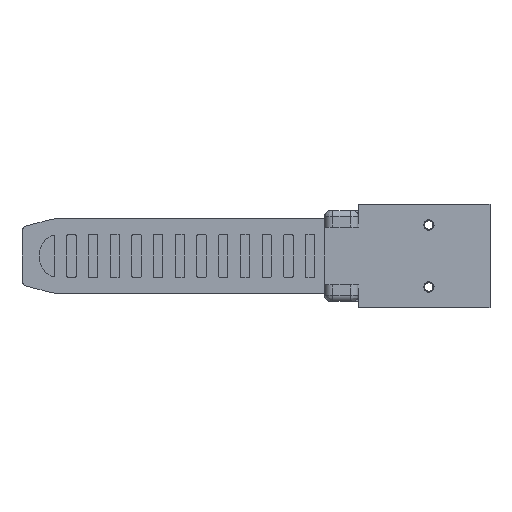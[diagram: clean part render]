
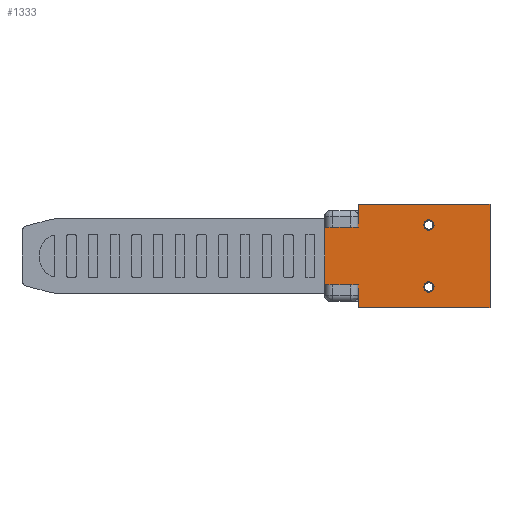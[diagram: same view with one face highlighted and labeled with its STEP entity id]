
A CAD part, front view. The second image highlights one B-rep face of the part: STEP entity #1333.
In plain terms, the highlighted planar face has unit normal (0, -1, 0).
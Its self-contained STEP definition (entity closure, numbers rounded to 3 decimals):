
#188 = CARTESIAN_POINT ( 'NONE',  ( -14.2, -5., 12.5 ) ) ;
#370 = DIRECTION ( 'NONE',  ( 0., 0., 1. ) ) ;
#449 = VECTOR ( 'NONE', #7078, 1000. ) ;
#491 = CARTESIAN_POINT ( 'NONE',  ( 11., -5., 6.25 ) ) ;
#506 = ORIENTED_EDGE ( 'NONE', *, *, #10434, .F. ) ;
#710 = CARTESIAN_POINT ( 'NONE',  ( -6., -5., 7.8 ) ) ;
#745 = ORIENTED_EDGE ( 'NONE', *, *, #15142, .T. ) ;
#891 = AXIS2_PLACEMENT_3D ( 'NONE', #17645, #9014, #370 ) ;
#1195 = AXIS2_PLACEMENT_3D ( 'NONE', #188, #10262, #1647 ) ;
#1333 = ADVANCED_FACE ( 'NONE', ( #2275, #9898, #6553 ), #13093, .F. ) ;
#1440 = ORIENTED_EDGE ( 'NONE', *, *, #17404, .F. ) ;
#1647 = DIRECTION ( 'NONE',  ( 0., 0., 1. ) ) ;
#1950 = DIRECTION ( 'NONE',  ( 0., 1., 0. ) ) ;
#2263 = CIRCLE ( 'NONE', #16727, 1.25 ) ;
#2275 = FACE_BOUND ( 'NONE', #7968, .T. ) ;
#2513 = CARTESIAN_POINT ( 'NONE',  ( -14.2, -5., 12.5 ) ) ;
#2555 = LINE ( 'NONE', #17096, #10185 ) ;
#2557 = VERTEX_POINT ( 'NONE', #3189 ) ;
#2663 = DIRECTION ( 'NONE',  ( 0., 0., -1. ) ) ;
#2945 = DIRECTION ( 'NONE',  ( 0., 1., 0. ) ) ;
#3189 = CARTESIAN_POINT ( 'NONE',  ( 25.8, -5., 12.5 ) ) ;
#3213 = EDGE_CURVE ( 'NONE', #2557, #12687, #17514, .T. ) ;
#3899 = VERTEX_POINT ( 'NONE', #16775 ) ;
#3991 = ORIENTED_EDGE ( 'NONE', *, *, #17586, .T. ) ;
#4229 = VECTOR ( 'NONE', #2663, 1000. ) ;
#4242 = CARTESIAN_POINT ( 'NONE',  ( 11., -5., -7.5 ) ) ;
#4704 = ORIENTED_EDGE ( 'NONE', *, *, #6563, .T. ) ;
#5021 = EDGE_CURVE ( 'NONE', #3899, #12687, #8408, .T. ) ;
#5630 = VECTOR ( 'NONE', #12458, 1000. ) ;
#5677 = DIRECTION ( 'NONE',  ( 0., 0., 1. ) ) ;
#5811 = VERTEX_POINT ( 'NONE', #13562 ) ;
#6553 = FACE_OUTER_BOUND ( 'NONE', #15691, .T. ) ;
#6563 = EDGE_CURVE ( 'NONE', #17750, #16525, #10561, .T. ) ;
#6738 = CARTESIAN_POINT ( 'NONE',  ( 25.8, -5., -12.5 ) ) ;
#6842 = EDGE_CURVE ( 'NONE', #13598, #7952, #15289, .T. ) ;
#7078 = DIRECTION ( 'NONE',  ( 1., 0., 0. ) ) ;
#7231 = CIRCLE ( 'NONE', #891, 1.25 ) ;
#7406 = VECTOR ( 'NONE', #13114, 1000. ) ;
#7952 = VERTEX_POINT ( 'NONE', #710 ) ;
#7968 = EDGE_LOOP ( 'NONE', ( #745, #14811 ) ) ;
#8350 = CARTESIAN_POINT ( 'NONE',  ( -6., -5., -7.8 ) ) ;
#8408 = LINE ( 'NONE', #12757, #10421 ) ;
#8481 = DIRECTION ( 'NONE',  ( 1., 0., 0. ) ) ;
#8619 = ORIENTED_EDGE ( 'NONE', *, *, #6842, .T. ) ;
#8640 = EDGE_CURVE ( 'NONE', #13374, #5811, #2555, .T. ) ;
#8723 = VERTEX_POINT ( 'NONE', #10085 ) ;
#8987 = LINE ( 'NONE', #2513, #12797 ) ;
#9014 = DIRECTION ( 'NONE',  ( 0., 1., 0. ) ) ;
#9228 = CARTESIAN_POINT ( 'NONE',  ( 11., -5., -8.75 ) ) ;
#9725 = DIRECTION ( 'NONE',  ( 0., 0., -1. ) ) ;
#9835 = VECTOR ( 'NONE', #9725, 1000. ) ;
#9837 = CIRCLE ( 'NONE', #14046, 1.25 ) ;
#9898 = FACE_BOUND ( 'NONE', #16863, .T. ) ;
#10085 = CARTESIAN_POINT ( 'NONE',  ( 11., -5., -6.25 ) ) ;
#10108 = CARTESIAN_POINT ( 'NONE',  ( 11., -5., 8.75 ) ) ;
#10185 = VECTOR ( 'NONE', #18485, 1000. ) ;
#10262 = DIRECTION ( 'NONE',  ( 0., 1., 0. ) ) ;
#10421 = VECTOR ( 'NONE', #8481, 1000. ) ;
#10434 = EDGE_CURVE ( 'NONE', #13598, #2557, #8987, .T. ) ;
#10505 = CARTESIAN_POINT ( 'NONE',  ( -14.2, -5., 7.8 ) ) ;
#10561 = CIRCLE ( 'NONE', #15905, 1.25 ) ;
#10568 = CARTESIAN_POINT ( 'NONE',  ( 11., -5., 7.5 ) ) ;
#11461 = LINE ( 'NONE', #15741, #449 ) ;
#11467 = ORIENTED_EDGE ( 'NONE', *, *, #13397, .T. ) ;
#11546 = CARTESIAN_POINT ( 'NONE',  ( 11., -5., 7.5 ) ) ;
#11674 = CARTESIAN_POINT ( 'NONE',  ( -6., -5., 12.5 ) ) ;
#12007 = DIRECTION ( 'NONE',  ( 0., 0., 1. ) ) ;
#12458 = DIRECTION ( 'NONE',  ( -1., 0., 0. ) ) ;
#12687 = VERTEX_POINT ( 'NONE', #6738 ) ;
#12712 = ORIENTED_EDGE ( 'NONE', *, *, #8640, .T. ) ;
#12757 = CARTESIAN_POINT ( 'NONE',  ( -14.2, -5., -12.5 ) ) ;
#12797 = VECTOR ( 'NONE', #14010, 1000. ) ;
#12994 = DIRECTION ( 'NONE',  ( 0., 0., 1. ) ) ;
#13093 = PLANE ( 'NONE',  #1195 ) ;
#13114 = DIRECTION ( 'NONE',  ( 0., 0., -1. ) ) ;
#13272 = LINE ( 'NONE', #18264, #5630 ) ;
#13374 = VERTEX_POINT ( 'NONE', #10505 ) ;
#13397 = EDGE_CURVE ( 'NONE', #16525, #17750, #9837, .T. ) ;
#13562 = CARTESIAN_POINT ( 'NONE',  ( -14.2, -5., -7.8 ) ) ;
#13598 = VERTEX_POINT ( 'NONE', #16876 ) ;
#14010 = DIRECTION ( 'NONE',  ( 1., 0., 0. ) ) ;
#14046 = AXIS2_PLACEMENT_3D ( 'NONE', #10568, #1950, #12007 ) ;
#14128 = ORIENTED_EDGE ( 'NONE', *, *, #17444, .F. ) ;
#14285 = DIRECTION ( 'NONE',  ( 0., 1., 0. ) ) ;
#14362 = VERTEX_POINT ( 'NONE', #8350 ) ;
#14607 = VERTEX_POINT ( 'NONE', #9228 ) ;
#14811 = ORIENTED_EDGE ( 'NONE', *, *, #16255, .T. ) ;
#15142 = EDGE_CURVE ( 'NONE', #8723, #14607, #7231, .T. ) ;
#15289 = LINE ( 'NONE', #18510, #4229 ) ;
#15543 = LINE ( 'NONE', #11674, #7406 ) ;
#15691 = EDGE_LOOP ( 'NONE', ( #1440, #3991, #18591, #18217, #506, #8619, #14128, #12712 ) ) ;
#15741 = CARTESIAN_POINT ( 'NONE',  ( -14.2, -5., 7.8 ) ) ;
#15905 = AXIS2_PLACEMENT_3D ( 'NONE', #11546, #2945, #12994 ) ;
#16255 = EDGE_CURVE ( 'NONE', #14607, #8723, #2263, .T. ) ;
#16525 = VERTEX_POINT ( 'NONE', #10108 ) ;
#16727 = AXIS2_PLACEMENT_3D ( 'NONE', #4242, #14285, #5677 ) ;
#16775 = CARTESIAN_POINT ( 'NONE',  ( -6., -5., -12.5 ) ) ;
#16863 = EDGE_LOOP ( 'NONE', ( #11467, #4704 ) ) ;
#16876 = CARTESIAN_POINT ( 'NONE',  ( -6., -5., 12.5 ) ) ;
#17096 = CARTESIAN_POINT ( 'NONE',  ( -14.2, -5., 12.5 ) ) ;
#17404 = EDGE_CURVE ( 'NONE', #14362, #5811, #13272, .T. ) ;
#17444 = EDGE_CURVE ( 'NONE', #13374, #7952, #11461, .T. ) ;
#17514 = LINE ( 'NONE', #18354, #9835 ) ;
#17586 = EDGE_CURVE ( 'NONE', #14362, #3899, #15543, .T. ) ;
#17645 = CARTESIAN_POINT ( 'NONE',  ( 11., -5., -7.5 ) ) ;
#17750 = VERTEX_POINT ( 'NONE', #491 ) ;
#18217 = ORIENTED_EDGE ( 'NONE', *, *, #3213, .F. ) ;
#18264 = CARTESIAN_POINT ( 'NONE',  ( -14.2, -5., -7.8 ) ) ;
#18354 = CARTESIAN_POINT ( 'NONE',  ( 25.8, -5., 12.5 ) ) ;
#18485 = DIRECTION ( 'NONE',  ( 0., 0., -1. ) ) ;
#18510 = CARTESIAN_POINT ( 'NONE',  ( -6., -5., 12.5 ) ) ;
#18591 = ORIENTED_EDGE ( 'NONE', *, *, #5021, .T. ) ;
